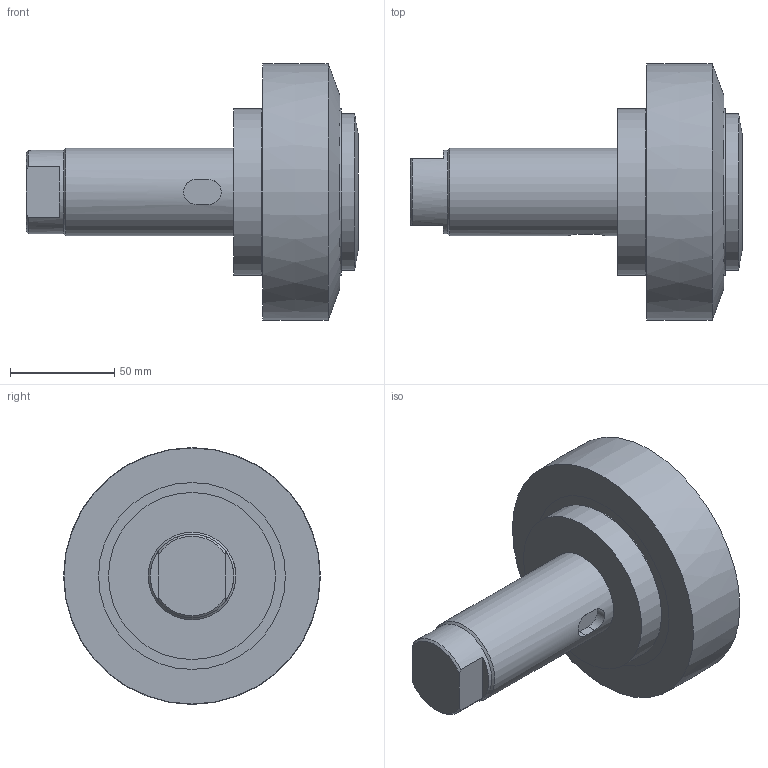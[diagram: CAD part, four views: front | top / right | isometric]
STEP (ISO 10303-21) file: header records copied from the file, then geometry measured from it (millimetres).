
FILE_DESCRIPTION(/* description */ ('-','CAx-IF Rec.Pracs.---Representation and Presentation of Product Manufacturing Information (PMI)---4.0---2014-10-13'),/* implementation_level */ '2;1');
FILE_NAME(/* name */ 'c:\temp\dcb994d6-7f34-41e7-b8df-bcfa0ccca0dd\b8a8e225-3906-4bd7-85fb-eda88a77dde4.stp',/* time_stamp */ '2020-05-28T13:28:12+02:00',/* author */ ('-'),/* organization */ ('NTI CADcenter A/S'),/* preprocessor_version */ 'ST-DEVELOPER v18',/* originating_system */ 'Autodesk Inventor 2020',/* authorisation */ '-');
FILE_SCHEMA (('AP242_MANAGED_MODEL_BASED_3D_ENGINEERING_MIM_LF { 1 0 10303 442 1 1 4 }'));
Length unit declared in the file: millimetre
Products named in the file (1): TR 120.1360_Kontur
Bounding box: 159 x 122.99 x 122.99 mm (x, y, z)
Volume: 1089365.8 mm3; surface area: 144263.7 mm2
Topology: 7 solids, 7 shells, 50 faces, 105 edges, 76 vertices
Faces by surface type: plane 27, cylinder 15, cone 7, bspline 1
Full cylindrical faces by diameter (mm): 40 x1, 42 x1, 47.9 x1, 71 x1, 75 x1, 79 x1, 80 x3, 84.5 x1, 86.8 x1, 89.5 x2
Entity records: 1588 total; most frequent: CARTESIAN_POINT 330, DIRECTION 264, ORIENTED_EDGE 210, AXIS2_PLACEMENT_3D 115, EDGE_CURVE 105, VERTEX_POINT 76, CIRCLE 65, EDGE_LOOP 57
